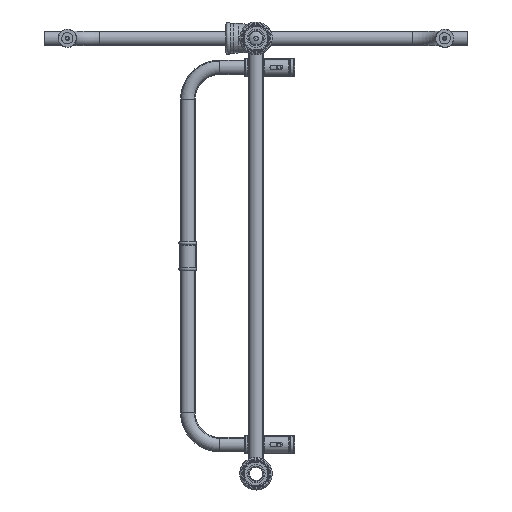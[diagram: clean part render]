
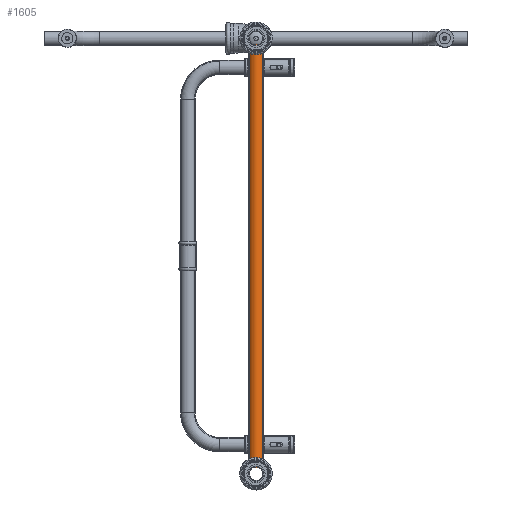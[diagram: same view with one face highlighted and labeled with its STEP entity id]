
A CAD part, front view. The second image highlights one B-rep face of the part: STEP entity #1605.
In plain terms, the highlighted cylindrical face has radius 10 mm (diameter 20 mm), a full revolution.
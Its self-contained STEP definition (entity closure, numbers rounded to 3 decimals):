
#1605 = ADVANCED_FACE( '', ( #3441, #3442 ), #3443, .T. );
#3441 = FACE_OUTER_BOUND( '', #5780, .T. );
#3442 = FACE_OUTER_BOUND( '', #5781, .T. );
#3443 = CYLINDRICAL_SURFACE( '', #5782, 10. );
#5780 = EDGE_LOOP( '', ( #8545 ) );
#5781 = EDGE_LOOP( '', ( #8546 ) );
#5782 = AXIS2_PLACEMENT_3D( '', #8547, #8548, #8549 );
#8545 = ORIENTED_EDGE( '', *, *, #10238, .T. );
#8546 = ORIENTED_EDGE( '', *, *, #10434, .F. );
#8547 = CARTESIAN_POINT( '', ( 292., 0., 0. ) );
#8548 = DIRECTION( '', ( 1., 0., 0. ) );
#8549 = DIRECTION( '', ( 0., 0., 1. ) );
#10238 = EDGE_CURVE( '', #11566, #11566, #11567, .T. );
#10434 = EDGE_CURVE( '', #11873, #11873, #11874, .T. );
#11566 = VERTEX_POINT( '', #19718 );
#11567 = CIRCLE( '', #19719, 10. );
#11873 = VERTEX_POINT( '', #24722 );
#11874 = CIRCLE( '', #24723, 10. );
#19718 = CARTESIAN_POINT( '', ( 292., 10., 0. ) );
#19719 = AXIS2_PLACEMENT_3D( '', #27600, #27601, #27602 );
#24722 = CARTESIAN_POINT( '', ( -292., 10., 0. ) );
#24723 = AXIS2_PLACEMENT_3D( '', #27786, #27787, #27788 );
#27600 = CARTESIAN_POINT( '', ( 292., 0., 0. ) );
#27601 = DIRECTION( '', ( -1., 0., 0. ) );
#27602 = DIRECTION( '', ( 0., 1., 0. ) );
#27786 = CARTESIAN_POINT( '', ( -292., 0., 0. ) );
#27787 = DIRECTION( '', ( -1., 0., 0. ) );
#27788 = DIRECTION( '', ( 0., 1., 0. ) );
